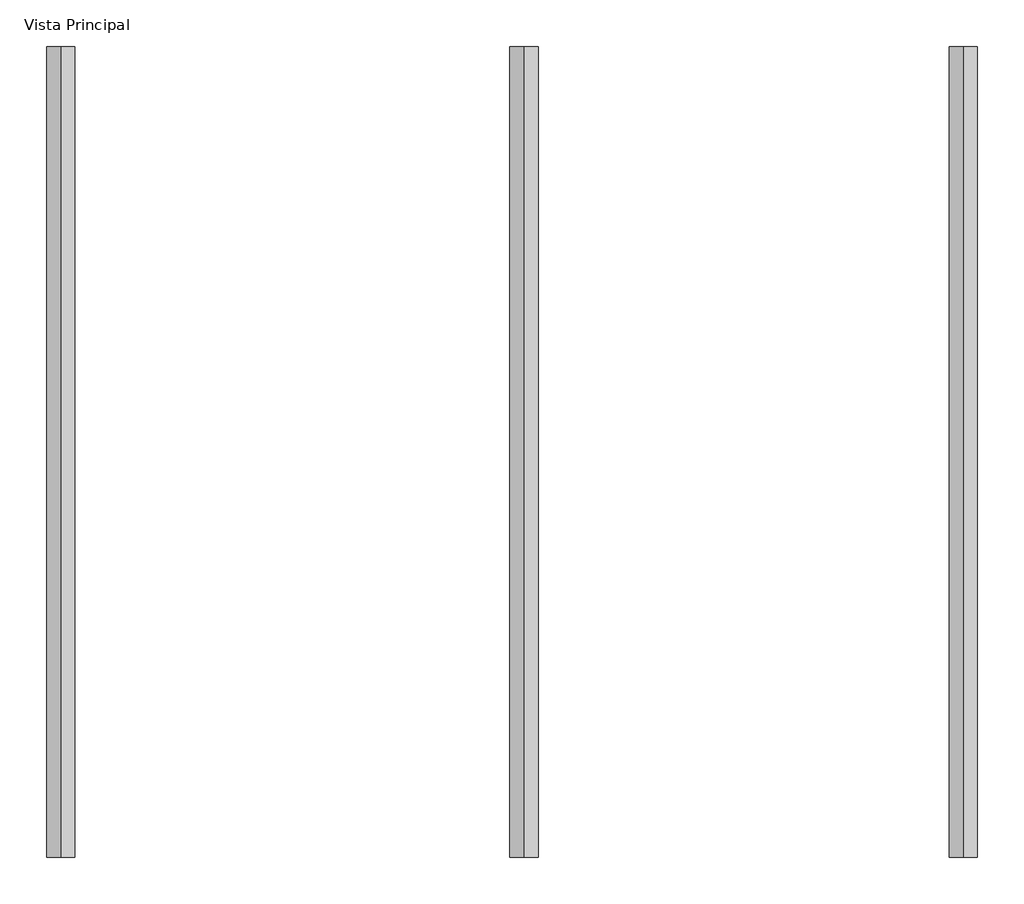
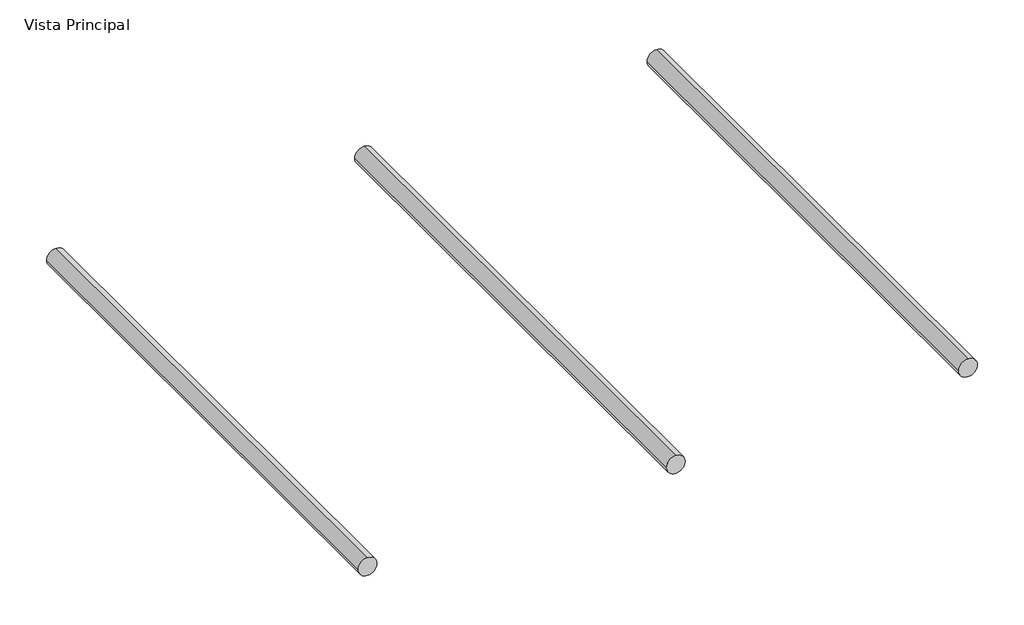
# One storey, incomplete: 3 pipe segments.
"""IFC4 building model written with IfcOpenShell, lengths in millimetres."""

from ifc_helpers import new_model, si_unit, point, frame, frame_2d, origin, place, context, project, spatial, circle_curve, trimmed, segment, composite_curve, outline, extrude, element, save

model = new_model("IFC4")

# Units and contexts
model_context = context("Model", 3, world=origin())
ifc_project = project(units=[si_unit("LENGTHUNIT", "METRE", prefix="MILLI")], contexts=[model_context])

# Site, building, storey
site = spatial("IfcSite", under=ifc_project)
building = spatial("IfcBuilding", under=site)
storey = spatial("IfcBuildingStorey", under=building, Name="Vista Principal", Elevation=0.0)

# Pipe segments
placement = place(None, origin())
element("IfcPipeSegment", 1, ObjectType="Amanco Wavin PPR PN 25", at=placement, inside=storey, context=model_context, shape_type="SweptSolid", body=[
    extrude(outline(composite_curve([segment(trimmed(circle_curve(frame_2d((0.0, 87186.6984805)), 16.0), [point((0.0, 87170.6984805))], [point((-16.0, 87186.6984805))], False, "CARTESIAN"), True, "CONTINUOUS"), segment(trimmed(circle_curve(frame_2d((0.0, 87186.6984805)), 16.0), [point((-16.0, 87186.6984805))], [point((0.0, 87202.6984805))], False, "CARTESIAN"), True, "CONTINUOUS"), segment(trimmed(circle_curve(frame_2d((0.0, 87186.6984805)), 16.0), [point((0.0, 87202.6984805))], [point((16.0, 87186.6984805))], False, "CARTESIAN"), True, "CONTINUOUS"), segment(trimmed(circle_curve(frame_2d((0.0, 87186.6984805)), 16.0), [point((16.0, 87186.6984805))], [point((0.0, 87170.6984805))], False, "CARTESIAN"), True, "CONTINUOUS")], self_intersect=False)), frame((0.0, 46752.2900218, 0.0), z_axis=(0.0, 1.0, 0.0), x_axis=(0.0, 0.0, 1.0)), (0.0, 0.0, 1.0), 920.0),
])
element("IfcPipeSegment", 2, ObjectType="Amanco Wavin PPR PN 20", at=placement, inside=storey, context=model_context, shape_type="SweptSolid", body=[
    extrude(outline(composite_curve([segment(trimmed(circle_curve(frame_2d((0.0, 86688.2689839)), 16.0), [point((0.0, 86672.2689839))], [point((-16.0, 86688.2689839))], False, "CARTESIAN"), True, "CONTINUOUS"), segment(trimmed(circle_curve(frame_2d((0.0, 86688.2689839)), 16.0), [point((-16.0, 86688.2689839))], [point((0.0, 86704.2689839))], False, "CARTESIAN"), True, "CONTINUOUS"), segment(trimmed(circle_curve(frame_2d((0.0, 86688.2689839)), 16.0), [point((0.0, 86704.2689839))], [point((16.0, 86688.2689839))], False, "CARTESIAN"), True, "CONTINUOUS"), segment(trimmed(circle_curve(frame_2d((0.0, 86688.2689839)), 16.0), [point((16.0, 86688.2689839))], [point((0.0, 86672.2689839))], False, "CARTESIAN"), True, "CONTINUOUS")], self_intersect=False)), frame((0.0, 46752.2900218, 0.0), z_axis=(0.0, 1.0, 0.0), x_axis=(0.0, 0.0, 1.0)), (0.0, 0.0, 1.0), 920.0),
])
element("IfcPipeSegment", 3, ObjectType="Amanco Wavin PPR PN 12", at=placement, inside=storey, context=model_context, shape_type="SweptSolid", body=[
    extrude(outline(composite_curve([segment(trimmed(circle_curve(frame_2d((0.0, 86162.7962491)), 16.0), [point((0.0, 86146.7962491))], [point((-16.0, 86162.7962491))], False, "CARTESIAN"), True, "CONTINUOUS"), segment(trimmed(circle_curve(frame_2d((0.0, 86162.7962491)), 16.0), [point((-16.0, 86162.7962491))], [point((0.0, 86178.7962491))], False, "CARTESIAN"), True, "CONTINUOUS"), segment(trimmed(circle_curve(frame_2d((0.0, 86162.7962491)), 16.0), [point((0.0, 86178.7962491))], [point((16.0, 86162.7962491))], False, "CARTESIAN"), True, "CONTINUOUS"), segment(trimmed(circle_curve(frame_2d((0.0, 86162.7962491)), 16.0), [point((16.0, 86162.7962491))], [point((0.0, 86146.7962491))], False, "CARTESIAN"), True, "CONTINUOUS")], self_intersect=False)), frame((0.0, 46752.2900218, 0.0), z_axis=(0.0, 1.0, 0.0), x_axis=(0.0, 0.0, 1.0)), (0.0, 0.0, 1.0), 920.0),
])

save(model, "model.ifc")
